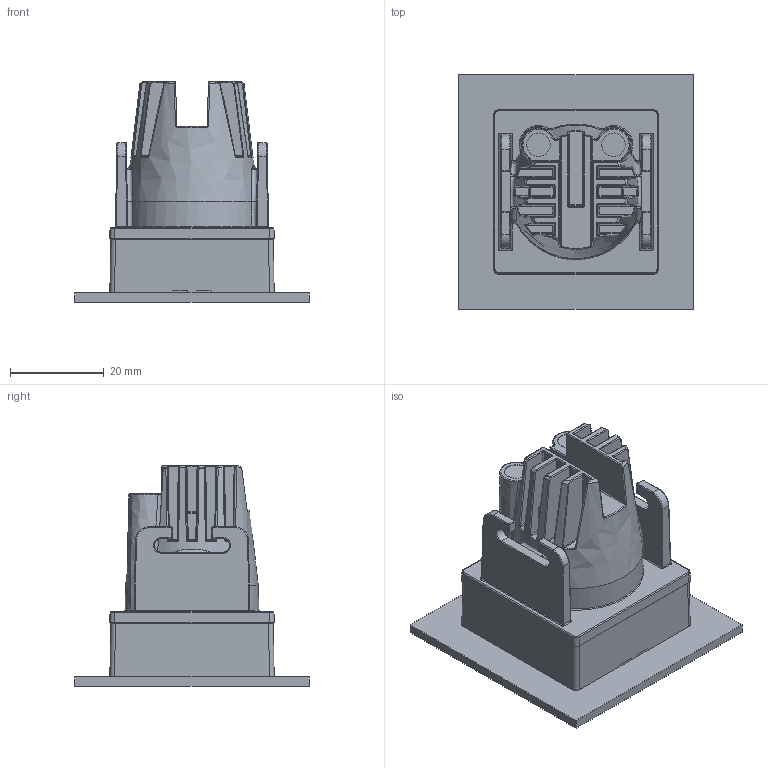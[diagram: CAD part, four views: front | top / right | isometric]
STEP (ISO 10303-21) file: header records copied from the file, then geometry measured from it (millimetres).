
FILE_DESCRIPTION(/* description */ (''),/* implementation_level */ '2;1');
FILE_NAME(/* name */ 'NL1708400_ZENO UP 2',/* time_stamp */ '2018-02-01T10:20:40+01:00',/* author */ (''),/* organization */ (''),/* preprocessor_version */ 'ST-DEVELOPER v15',/* originating_system */ '',/* authorisation */ '');
FILE_SCHEMA (('CONFIG_CONTROL_DESIGN'));
Length unit declared in the file: millimetre
Products named in the file (1): Document
Bounding box: 50 x 50 x 47 mm (x, y, z)
Volume: 13878.6 mm3; surface area: 20010.7 mm2
Topology: 3 solids, 4 shells, 605 faces, 1481 edges, 837 vertices
Faces by surface type: bspline 476, plane 129
Entity records: 25939 total; most frequent: CARTESIAN_POINT 17814, ORIENTED_EDGE 2852, EDGE_CURVE 1436, VERTEX_POINT 837, B_SPLINE_CURVE_WITH_KNOTS 675, EDGE_LOOP 616, ADVANCED_FACE 602, FACE_OUTER_BOUND 602
